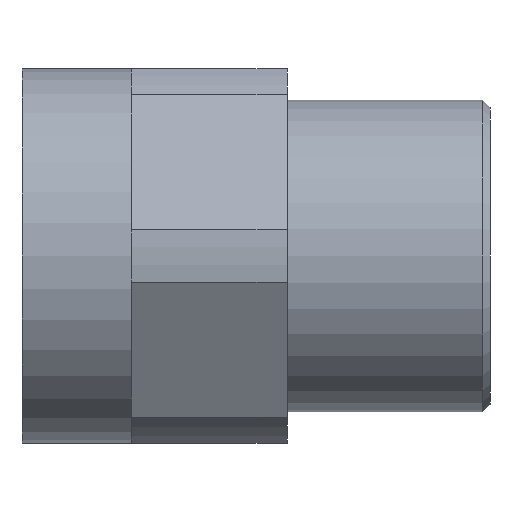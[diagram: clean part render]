
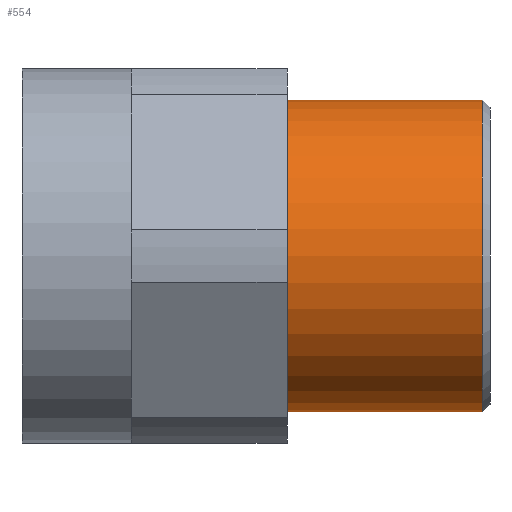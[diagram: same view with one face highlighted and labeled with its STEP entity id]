
A CAD part, left-side view. The second image highlights one B-rep face of the part: STEP entity #554.
In plain terms, the highlighted cylindrical face has radius 10 mm (diameter 20 mm), a partial arc.
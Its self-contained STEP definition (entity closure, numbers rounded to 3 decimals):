
#26 = CARTESIAN_POINT ( 'NONE',  ( 0., 13., -10. ) ) ;
#44 = VERTEX_POINT ( 'NONE', #1209 ) ;
#82 = DIRECTION ( 'NONE',  ( 0., 0., 1. ) ) ;
#131 = DIRECTION ( 'NONE',  ( 0., 0., 1. ) ) ;
#165 = LINE ( 'NONE', #281, #744 ) ;
#194 = CYLINDRICAL_SURFACE ( 'NONE', #738, 10. ) ;
#219 = VERTEX_POINT ( 'NONE', #1394 ) ;
#237 = CIRCLE ( 'NONE', #934, 10. ) ;
#281 = CARTESIAN_POINT ( 'NONE',  ( 0., 32., 10. ) ) ;
#362 = CARTESIAN_POINT ( 'NONE',  ( 0., 0.5, 0. ) ) ;
#491 = CARTESIAN_POINT ( 'NONE',  ( 0., 0.5, 10. ) ) ;
#554 = ADVANCED_FACE ( 'NONE', ( #1109 ), #194, .T. ) ;
#684 = CIRCLE ( 'NONE', #1084, 10. ) ;
#700 = CARTESIAN_POINT ( 'NONE',  ( 0., 32., -10. ) ) ;
#738 = AXIS2_PLACEMENT_3D ( 'NONE', #944, #905, #82 ) ;
#744 = VECTOR ( 'NONE', #1217, 1000. ) ;
#821 = EDGE_CURVE ( 'NONE', #1202, #44, #237, .T. ) ;
#878 = ORIENTED_EDGE ( 'NONE', *, *, #1206, .T. ) ;
#905 = DIRECTION ( 'NONE',  ( 0., 1., 0. ) ) ;
#906 = ORIENTED_EDGE ( 'NONE', *, *, #821, .F. ) ;
#934 = AXIS2_PLACEMENT_3D ( 'NONE', #1377, #1285, #1069 ) ;
#944 = CARTESIAN_POINT ( 'NONE',  ( 0., 32., 0. ) ) ;
#991 = LINE ( 'NONE', #700, #1277 ) ;
#1050 = DIRECTION ( 'NONE',  ( 0., 1., 0. ) ) ;
#1069 = DIRECTION ( 'NONE',  ( 0., 0., 1. ) ) ;
#1084 = AXIS2_PLACEMENT_3D ( 'NONE', #362, #1050, #131 ) ;
#1109 = FACE_OUTER_BOUND ( 'NONE', #1181, .T. ) ;
#1120 = VERTEX_POINT ( 'NONE', #491 ) ;
#1160 = ORIENTED_EDGE ( 'NONE', *, *, #1196, .F. ) ;
#1181 = EDGE_LOOP ( 'NONE', ( #1160, #878, #1255, #906 ) ) ;
#1196 = EDGE_CURVE ( 'NONE', #219, #1202, #991, .T. ) ;
#1202 = VERTEX_POINT ( 'NONE', #26 ) ;
#1206 = EDGE_CURVE ( 'NONE', #219, #1120, #684, .T. ) ;
#1209 = CARTESIAN_POINT ( 'NONE',  ( 0., 13., 10. ) ) ;
#1217 = DIRECTION ( 'NONE',  ( 0., 1., 0. ) ) ;
#1255 = ORIENTED_EDGE ( 'NONE', *, *, #1363, .T. ) ;
#1257 = DIRECTION ( 'NONE',  ( 0., 1., 0. ) ) ;
#1277 = VECTOR ( 'NONE', #1257, 1000. ) ;
#1285 = DIRECTION ( 'NONE',  ( 0., 1., 0. ) ) ;
#1363 = EDGE_CURVE ( 'NONE', #1120, #44, #165, .T. ) ;
#1377 = CARTESIAN_POINT ( 'NONE',  ( 0., 13., 0. ) ) ;
#1394 = CARTESIAN_POINT ( 'NONE',  ( 0., 0.5, -10. ) ) ;
